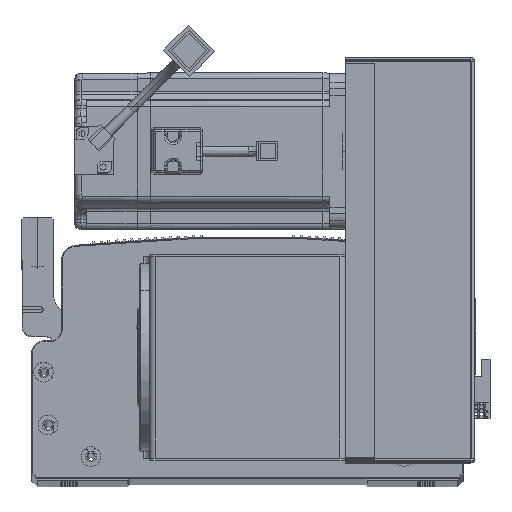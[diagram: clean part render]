
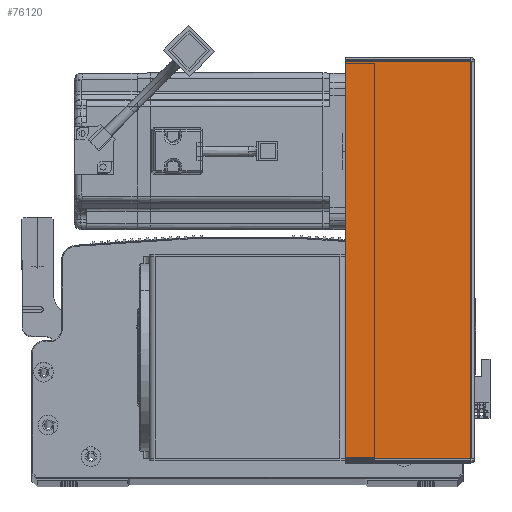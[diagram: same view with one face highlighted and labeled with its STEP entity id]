
A CAD part, top view. The second image highlights one B-rep face of the part: STEP entity #76120.
In plain terms, the highlighted planar face has unit normal (0, 0, 1) as drawn and (0, -1, 0) by its records, which use the part's own axes.
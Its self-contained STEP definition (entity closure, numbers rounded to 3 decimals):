
#2342 = CARTESIAN_POINT ( 'NONE',  ( 64.5, -1.5, 0. ) ) ;
#5127 = EDGE_CURVE ( 'NONE', #81784, #76675, #92288, .T. ) ;
#5622 = VERTEX_POINT ( 'NONE', #91206 ) ;
#6681 = EDGE_CURVE ( 'NONE', #81784, #5622, #67500, .T. ) ;
#11106 = PLANE ( 'NONE',  #45682 ) ;
#12250 = FACE_OUTER_BOUND ( 'NONE', #49517, .T. ) ;
#12821 = DIRECTION ( 'NONE',  ( 1., 0., 0. ) ) ;
#18808 = CARTESIAN_POINT ( 'NONE',  ( 0., -1.5, 0. ) ) ;
#20671 = LINE ( 'NONE', #2342, #74165 ) ;
#25074 = DIRECTION ( 'NONE',  ( 0., 1., 0. ) ) ;
#28268 = EDGE_CURVE ( 'NONE', #76675, #30793, #52335, .T. ) ;
#28402 = ORIENTED_EDGE ( 'NONE', *, *, #28268, .F. ) ;
#30793 = VERTEX_POINT ( 'NONE', #81080 ) ;
#31544 = DIRECTION ( 'NONE',  ( 0., 0., 1. ) ) ;
#32971 = CARTESIAN_POINT ( 'NONE',  ( 0.737, -1.5, -203.293 ) ) ;
#42884 = VECTOR ( 'NONE', #12821, 1000. ) ;
#43822 = ORIENTED_EDGE ( 'NONE', *, *, #5127, .F. ) ;
#45682 = AXIS2_PLACEMENT_3D ( 'NONE', #18808, #25074, #68681 ) ;
#47976 = CARTESIAN_POINT ( 'NONE',  ( 0.737, -1.5, 0. ) ) ;
#48560 = CARTESIAN_POINT ( 'NONE',  ( 0., -1.5, -203.293 ) ) ;
#48585 = DIRECTION ( 'NONE',  ( 0., 0., 1. ) ) ;
#49517 = EDGE_LOOP ( 'NONE', ( #43822, #88895, #57076, #28402 ) ) ;
#52335 = LINE ( 'NONE', #91961, #72400 ) ;
#57076 = ORIENTED_EDGE ( 'NONE', *, *, #84556, .T. ) ;
#58841 = VECTOR ( 'NONE', #48585, 1000. ) ;
#67500 = LINE ( 'NONE', #48560, #42884 ) ;
#68681 = DIRECTION ( 'NONE',  ( -1., 0., 0. ) ) ;
#69187 = CARTESIAN_POINT ( 'NONE',  ( 0.737, -1.5, -0.707 ) ) ;
#71340 = DIRECTION ( 'NONE',  ( 1., 0., 0. ) ) ;
#72400 = VECTOR ( 'NONE', #71340, 1000. ) ;
#74165 = VECTOR ( 'NONE', #31544, 1000. ) ;
#76120 = ADVANCED_FACE ( 'NONE', ( #12250 ), #11106, .F. ) ;
#76675 = VERTEX_POINT ( 'NONE', #69187 ) ;
#81080 = CARTESIAN_POINT ( 'NONE',  ( 64.5, -1.5, -0.707 ) ) ;
#81784 = VERTEX_POINT ( 'NONE', #32971 ) ;
#84556 = EDGE_CURVE ( 'NONE', #5622, #30793, #20671, .T. ) ;
#88895 = ORIENTED_EDGE ( 'NONE', *, *, #6681, .T. ) ;
#91206 = CARTESIAN_POINT ( 'NONE',  ( 64.5, -1.5, -203.293 ) ) ;
#91961 = CARTESIAN_POINT ( 'NONE',  ( 0., -1.5, -0.707 ) ) ;
#92288 = LINE ( 'NONE', #47976, #58841 ) ;
